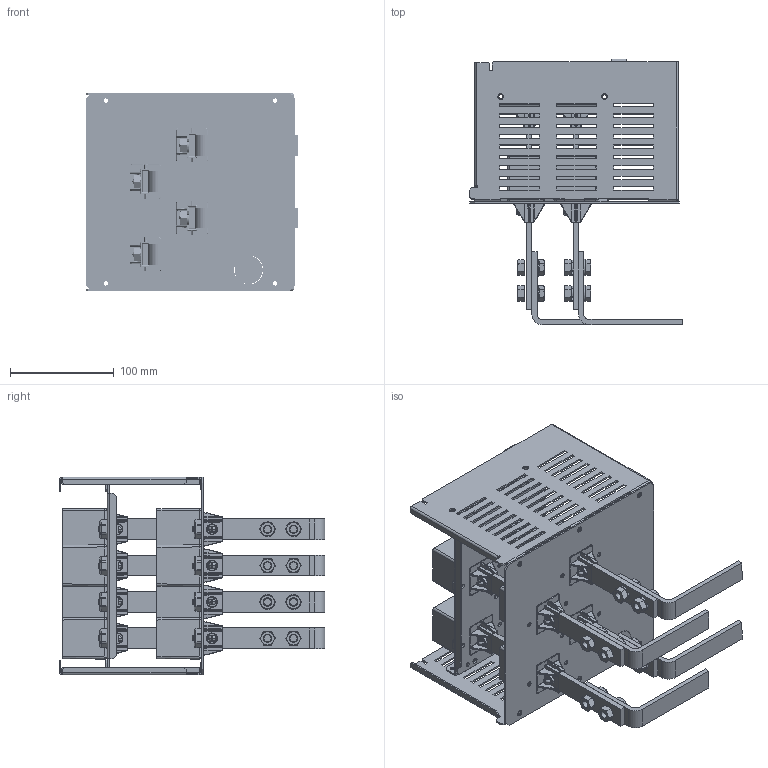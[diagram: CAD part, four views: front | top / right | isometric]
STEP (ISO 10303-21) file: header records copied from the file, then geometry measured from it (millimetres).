
FILE_DESCRIPTION(('CAx-IF Rec.Pracs.---Model Styling and Organization---1.2---2011-12-15','CAx-IF Rec.Pracs.---Geometric and Assembly Validation Properties---4.1---2014-06-16','CAx-IF Rec.Pracs.---PMI Polyline Presentation---2.0---2013-05-24'),'2;1');
FILE_NAME('R5M2W4MRT3B.stp','2021-05-05T13:05:40+03:00',(''),(''),'STEP Interface 4.4 by CT CoreTechnologie','3D_Evolution4.4 by CT CoreTechnologie','');
FILE_SCHEMA(('AUTOMOTIVE_DESIGN { 1 0 10303 214 1 1 1 1 }'));
Length unit declared in the file: millimetre
Products named in the file (15): R5M2W4MRT3B; 8 DIN127 ÑÌ130800INOX; V02.ÒÏÀ.08.0041.00.00.0_¤«ï ¨­áâàãªæ¨¨ ¯ «¥æ; V02.ÒÏÀ.08.0041.00.00.0_«ï ¨­áâàãªæ¨¨ ¡¥§ ¯ «ìæ; Ì4-GOST R 50273-92 (DIN 985)_thread; Ì8  DIN934 ÑÌ110800INOX; RB.1585.00.00.0_-00; A.8.01-GOST 11371-78 (DIN 125A) (CM240800)_ ©¡  A.8.016  11371-78; M8x25-DIN 933_thread; RB.1242.00.00.0_-01; RB.1217.00.00.0_-00; RB.1465.00.00.0_-00; RB.1466.00.00.1_-01; RB.1465.00.00.0_-01; RB.1584.00.00.1_-00
Assembly tree (74 placements, depth 2):
  R5M2W4MRT3B
    8 DIN127 ÑÌ130800INOX  x4
    V02.ÒÏÀ.08.0041.00.00.0_¤«ï ¨­áâàãªæ¨¨ ¯ «¥æ  x8
    V02.ÒÏÀ.08.0041.00.00.0_«ï ¨­áâàãªæ¨¨ ¡¥§ ¯ «ìæ  x8
    Ì4-GOST R 50273-92 (DIN 985)_thread  x16
    Ì8  DIN934 ÑÌ110800INOX  x8
    RB.1585.00.00.0_-00  x4
    A.8.01-GOST 11371-78 (DIN 125A) (CM240800)_ ©¡  A.8.016  11371-78  x8
    M8x25-DIN 933_thread  x8
    RB.1242.00.00.0_-01
    RB.1217.00.00.0_-00  x2
    RB.1465.00.00.0_-00
    RB.1466.00.00.1_-01
    RB.1465.00.00.0_-01
    RB.1584.00.00.1_-00  x4
Bounding box: 205 x 255.5 x 190 mm (x, y, z)
Surface area: 498831.3 mm2 (no closed solid volume)
Topology: 0 solids, 90 shells, 4176 faces, 10531 edges, 6423 vertices
Faces by surface type: plane 1728, bspline 1260, cylinder 1188
Entity records: 43918 total; most frequent: CARTESIAN_POINT 15353, ORIENTED_EDGE 5686, DIRECTION 5409, EDGE_CURVE 2843, VECTOR 1995, LINE 1995, VERTEX_POINT 1827, AXIS2_PLACEMENT_3D 1707
